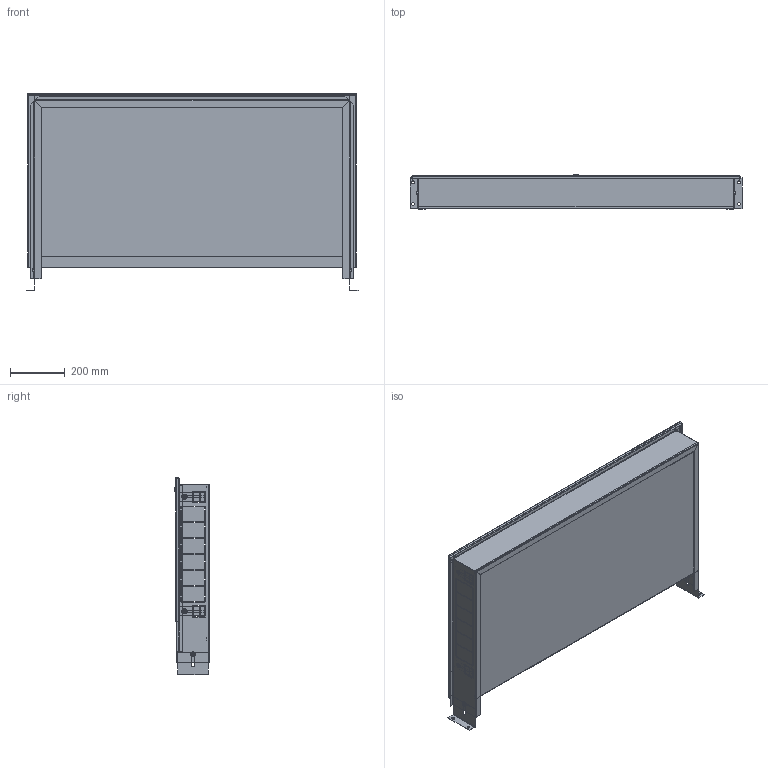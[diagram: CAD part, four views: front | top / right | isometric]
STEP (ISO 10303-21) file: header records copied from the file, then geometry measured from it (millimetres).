
FILE_DESCRIPTION(('TFLEX Exchange Step'),'2;1');
FILE_NAME('Manifold cabinet VTc.540.0.06 Valtec.stp', '2023-10-11T14:43:21+03:00',('denis'),('Unknown organisation'),'TFLEX Exchange 2023.0','T-FLEX CAD','Unknown authorisation');
FILE_SCHEMA( ('AUTOMOTIVE_DESIGN { 1 0 10303 214 1 1 1 1 }') );
Length unit declared in the file: millimetre
Products named in the file (1): Nodes
Bounding box: 1210 x 124.1 x 719 mm (x, y, z)
Volume: 1659022.4 mm3; surface area: 4031145.8 mm2
Topology: 14 solids, 15 shells, 784 faces, 2075 edges, 1345 vertices
Faces by surface type: plane 592, cylinder 127, cone 43, bspline 12, torus 6, sphere 4
Full cylindrical faces by diameter (mm): 6 x12, 6.4 x6, 7 x2, 10 x5, 12 x1, 14 x4, 16 x1, 18 x6, 20 x2
Entity records: 27234 total; most frequent: CARTESIAN_POINT 7580, ORIENTED_EDGE 4142, DIRECTION 3793, EDGE_CURVE 2071, VECTOR 1535, LINE 1535, VERTEX_POINT 1345, AXIS2_PLACEMENT_3D 1129
